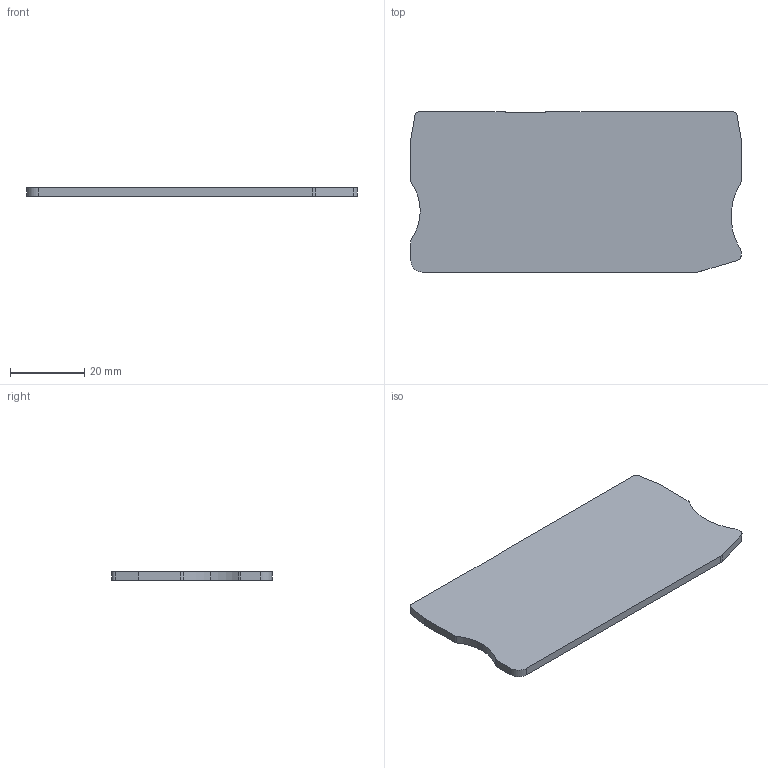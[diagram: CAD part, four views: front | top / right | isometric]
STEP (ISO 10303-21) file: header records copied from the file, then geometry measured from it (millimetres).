
FILE_DESCRIPTION( ('This file contains a STEP AP42 implementation' ,'as created by ZW3D STEP Interface translator.') ,'2;1' );
FILE_NAME( 'D-RPV10-TWIN傷啣耀倰.stp' ,'221111.112917', (''), ('ZWCAD Software Co.'), 'Version 1.0', 'ZW3D to STEP translator', '' );
FILE_SCHEMA(('AUTOMOTIVE_DESIGN { 1 0 10303 214 1 1 1 1 }'));
Length unit declared in the file: millimetre
Products named in the file (2): 0; D-RPV10-TWIN-1
Bounding box: 88.9 x 43.1 x 2.2 mm (x, y, z)
Volume: 8223.6 mm3; surface area: 8045.6 mm2
Topology: 1 solids, 1 shells, 29 faces, 81 edges, 54 vertices
Faces by surface type: plane 15, cylinder 14
Entity records: 1002 total; most frequent: DIRECTION 169, CARTESIAN_POINT 165, ORIENTED_EDGE 162, EDGE_CURVE 81, AXIS2_PLACEMENT_3D 58, VERTEX_POINT 54, VECTOR 53, LINE 53
